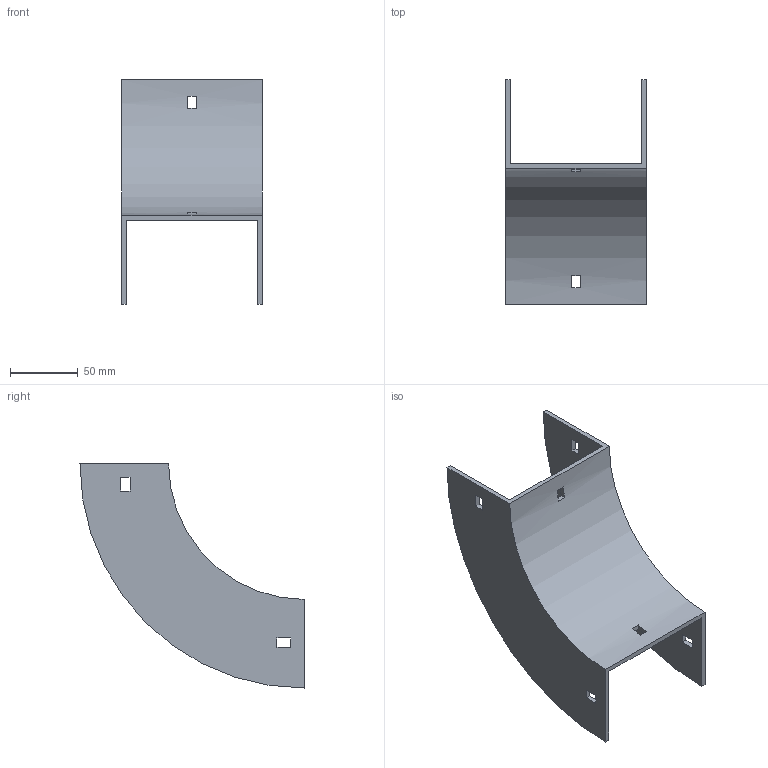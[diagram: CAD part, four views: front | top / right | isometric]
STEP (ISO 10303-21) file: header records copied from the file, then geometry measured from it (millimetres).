
FILE_DESCRIPTION (( 'STEP AP214' ), '1' );
FILE_NAME ('33B1H100.step', '2025-02-21T09:31:58', ( '' ), ( '' ), 'SwSTEP 2.0', 'SolidWorks 2023', '' );
FILE_SCHEMA (( 'AUTOMOTIVE_DESIGN' ));
Length unit declared in the file: millimetre
Products named in the file (1): 33B1H100
Bounding box: 104 x 165.5 x 165.5 mm (x, y, z)
Volume: 148474.5 mm3; surface area: 88935.2 mm2
Topology: 1 solids, 1 shells, 34 faces, 96 edges, 64 vertices
Faces by surface type: plane 30, cylinder 4
Entity records: 1143 total; most frequent: CARTESIAN_POINT 195, ORIENTED_EDGE 192, DIRECTION 182, EDGE_CURVE 96, VECTOR 80, LINE 80, VERTEX_POINT 64, AXIS2_PLACEMENT_3D 51
